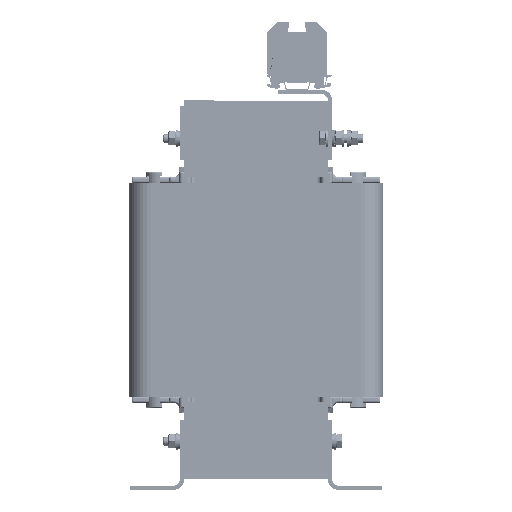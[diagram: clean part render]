
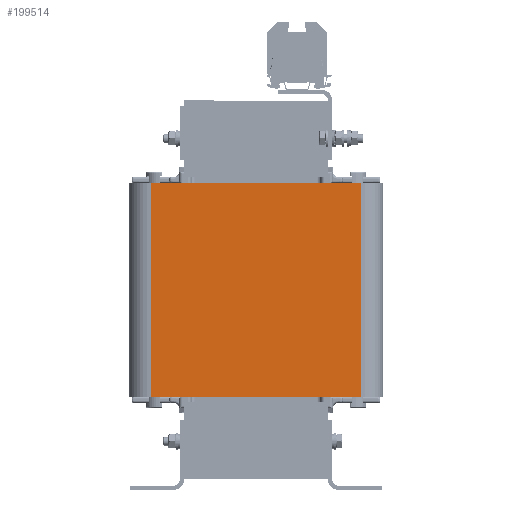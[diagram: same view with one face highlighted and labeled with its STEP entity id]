
A CAD part, left-side view. The second image highlights one B-rep face of the part: STEP entity #199514.
In plain terms, the highlighted planar face has unit normal (-1, 0, 0).
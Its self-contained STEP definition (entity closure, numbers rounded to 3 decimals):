
#191813=CARTESIAN_POINT('',(-221.45,97.3,99.));
#191814=VERTEX_POINT('',#191813);
#191824=CARTESIAN_POINT('',(-221.45,-97.3,99.));
#191825=VERTEX_POINT('',#191824);
#191826=CARTESIAN_POINT('',(-221.45,-97.3,99.));
#191827=DIRECTION('',(0.0,1.0,0.0));
#191828=VECTOR('',#191827,194.6);
#191829=LINE('',#191826,#191828);
#191830=EDGE_CURVE('',#191825,#191814,#191829,.T.);
#193330=CARTESIAN_POINT('',(-221.45,-97.3,-99.));
#193331=VERTEX_POINT('',#193330);
#193341=CARTESIAN_POINT('',(-221.45,97.3,-99.));
#193342=VERTEX_POINT('',#193341);
#193343=CARTESIAN_POINT('',(-221.45,97.3,-99.));
#193344=DIRECTION('',(0.0,-1.0,0.0));
#193345=VECTOR('',#193344,194.6);
#193346=LINE('',#193343,#193345);
#193347=EDGE_CURVE('',#193342,#193331,#193346,.T.);
#199392=CARTESIAN_POINT('',(-221.45,-97.3,-99.));
#199393=DIRECTION('',(0.0,0.0,1.0));
#199394=VECTOR('',#199393,198.);
#199395=LINE('',#199392,#199394);
#199396=EDGE_CURVE('',#193331,#191825,#199395,.T.);
#199492=CARTESIAN_POINT('',(-221.45,97.3,99.));
#199493=DIRECTION('',(0.0,0.0,-1.0));
#199494=VECTOR('',#199493,198.);
#199495=LINE('',#199492,#199494);
#199496=EDGE_CURVE('',#191814,#193342,#199495,.T.);
#199503=CARTESIAN_POINT('',(-221.45,97.3,0.0));
#199504=DIRECTION('',(-1.0,0.0,0.0));
#199505=DIRECTION('',(0.0,0.0,-1.0));
#199506=AXIS2_PLACEMENT_3D('',#199503,#199504,#199505);
#199507=PLANE('',#199506);
#199508=ORIENTED_EDGE('',*,*,#193347,.T.);
#199509=ORIENTED_EDGE('',*,*,#199396,.T.);
#199510=ORIENTED_EDGE('',*,*,#191830,.T.);
#199511=ORIENTED_EDGE('',*,*,#199496,.T.);
#199512=EDGE_LOOP('',(#199508,#199509,#199510,#199511));
#199513=FACE_OUTER_BOUND('',#199512,.T.);
#199514=ADVANCED_FACE('',(#199513),#199507,.T.);
